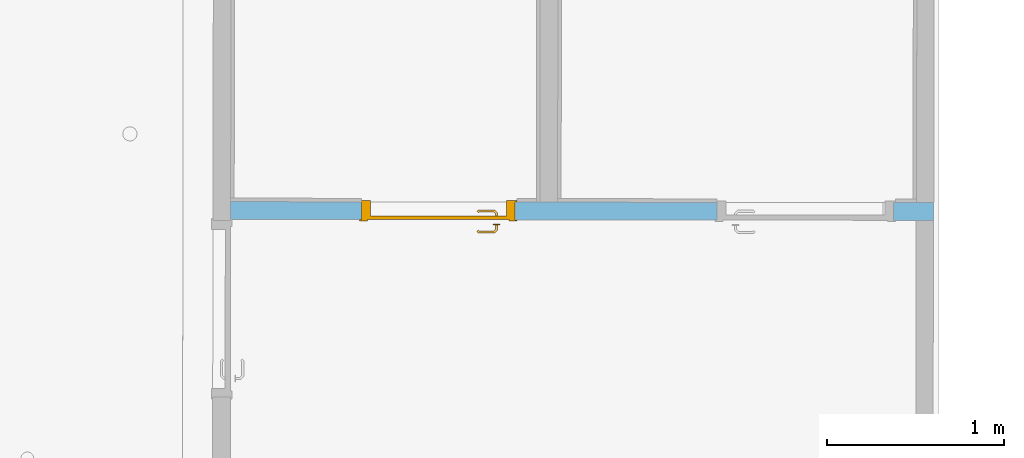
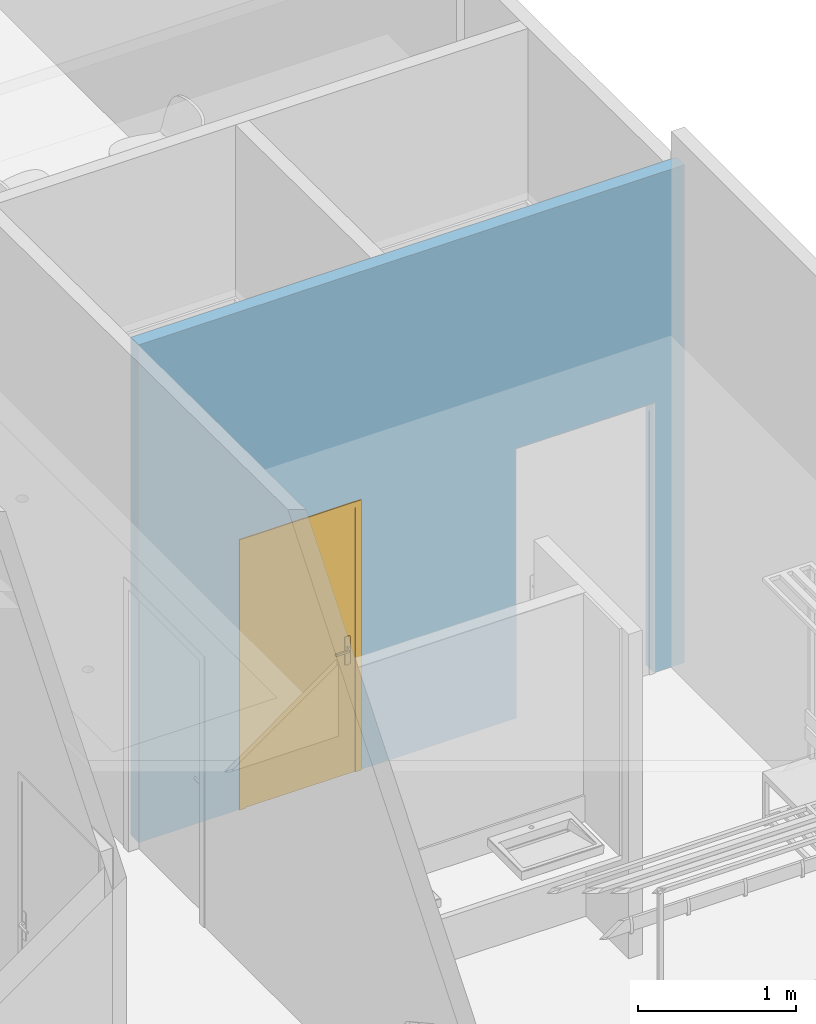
# One storey, part 27 of 43: 1 door, 2 openings, plus 1 element that does not belong to this part.
"""IFC2X3 building model written with IfcOpenShell, lengths in metres."""

from ifc_helpers import new_model, entity, si_unit, converted_unit, derived_unit, direction, frame, frame_2d, origin, place, context, subcontext, project, spatial, polyline, rectangle, outline, extrude, clip, bounded_halfspace, faceted_brep, source, transform, mapped, material, material_list, layer, layer_set, layer_usage, type_object, type_shapes, element, fill, save


model = new_model("IFC2X3")

# Units and contexts
model_context = context("Model", 3, precision=1e-05, world=origin(), true_north=direction((6.123233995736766e-17, 1.0)))
body_context = subcontext(model_context, "Body", "Model", "MODEL_VIEW")
ifc_project = project(units=[si_unit("LENGTHUNIT", "METRE"), si_unit("AREAUNIT", "SQUARE_METRE"), converted_unit("PLANEANGLEUNIT", "DEGREE", entity("IfcPlaneAngleMeasure", 0.017453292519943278), si_unit("PLANEANGLEUNIT", "RADIAN"), dimensions=[0, 0, 0, 0, 0, 0, 0]), derived_unit("THERMALTRANSMITTANCEUNIT", [(si_unit("MASSUNIT", "GRAM", prefix="KILO"), 1), (si_unit("THERMODYNAMICTEMPERATUREUNIT", "KELVIN"), -1), (si_unit("TIMEUNIT", "SECOND"), -3)])], contexts=[model_context])

# Site, building, storey
site_placement = place(None, frame((1253.6752467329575, 2072.143113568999, 91.49999999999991), z_axis=(0.0, 0.0, 1.0), x_axis=(0.7237211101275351, 0.6900925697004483, 0.0)))
site = spatial("IfcSite", under=ifc_project, at=site_placement, Name="Surface", CompositionType="ELEMENT")
building_placement = place(site_placement, origin())
building = spatial("IfcBuilding", under=site, at=building_placement, CompositionType="ELEMENT")
storey_placement = place(building_placement, frame((0.0, 0.0, -4.629999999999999)))
storey = spatial("IfcBuildingStorey", under=building, at=storey_placement, Name="rez de rue -1.10m", CompositionType="ELEMENT", Elevation=-4.629999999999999)

# Wall, openings, door
ifc_material_1 = material(Name="OMD_Cloison 100mm")
ifc_layer = layer(ifc_material_1, 0.1)
ifc_layer_set = layer_set([ifc_layer], Name="Mur de base:Cloison 100mm")
ifc_layer_usage = layer_usage(ifc_layer_set, "AXIS2", "POSITIVE", -0.05)
wall_type = type_object("IfcWallType", Name="Mur de base:Cloison 100mm", PredefinedType="STANDARD", material=ifc_layer_set)
wall_placement = place(storey_placement, frame((175.6110783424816, -7.6016317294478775, 0.0), z_axis=(0.0, 0.0, 1.0), x_axis=(0.7227070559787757, -0.6911544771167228, 0.0)))
wall = element("IfcWallStandardCase", 1, at=wall_placement, inside=storey, type_object=wall_type, material=ifc_layer_usage, Name="Mur de base:Cloison 100mm", ObjectType="Mur de base:Cloison 100mm", context=body_context, shape_type="Clipping", body=[
    clip(extrude(outline(polyline([(0.0, -0.04999999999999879), (3.9769807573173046, -0.04999999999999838), (3.977005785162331, 0.05000000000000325), (3.881052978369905, 0.049999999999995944), (1.8500000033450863, 0.04999999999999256), (1.750000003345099, 0.04999999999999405), (0.0, 0.049999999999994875), (0.0, -0.04999999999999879)])), origin(), (0.0, 0.0, 1.0), 3.8377577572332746), bounded_halfspace(frame((0.0, -0.050000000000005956, 3.8377577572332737), z_axis=(0.0, 0.00890106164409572, 0.9999603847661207), x_axis=(-1.0, 0.0, 0.0)), False, frame((0.0, -0.050000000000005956, 3.8377577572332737)), polyline([(0.0, 0.0), (3.976980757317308, 0.0), (3.9770057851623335, 0.09999999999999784), (3.8810529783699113, 0.10000000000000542), (1.8500000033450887, 0.09999999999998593), (1.7500000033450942, 0.09999999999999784), (0.0, 0.09999999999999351), (0.0, 0.0)]))),
])
opening_1_placement = place(wall_placement, frame((3.7519644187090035, 0.050000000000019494, 0.0)))
element("IfcOpeningElement", 2, at=opening_1_placement, cuts=wall, Name="Grz_porte 1V recouvrement 30°:93x204:1", ObjectType="Opening", context=body_context, shape_type="SweptSolid", body=[
    extrude(rectangle(XDim=2.0749999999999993, YDim=0.999999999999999, at=frame_2d((1.0374999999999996, 0.5000000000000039), x_axis=(1.0, 0.0))), frame((0.0, 0.0, 0.0), z_axis=(0.0, -1.0, 0.0), x_axis=(0.0, 0.0, 1.0)), (0.0, 0.0, 1.0), 0.1),
])
opening_2_placement = place(wall_placement, frame((1.6100000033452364, 0.05000000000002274, 0.0)))
opening_2 = element("IfcOpeningElement", 3, at=opening_2_placement, cuts=wall, Name="Grz_porte 1V recouvrement 30°:80x204:1", ObjectType="Opening", context=body_context, shape_type="SweptSolid", body=[
    extrude(rectangle(XDim=2.0749999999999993, YDim=0.8699999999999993, at=frame_2d((1.0374999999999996, 0.43499999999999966), x_axis=(1.0, 0.0))), frame((0.0, 0.0, 0.0), z_axis=(0.0, -1.0, 0.0), x_axis=(0.0, 0.0, 1.0)), (0.0, 0.0, 1.0), 0.1),
])
ifc_material_2 = material(Name="Porte - Poignée")
ifc_material_3 = material(Name="Porte - Cadre")
ifc_material_4 = material(Name="Porte - Panneau")
ifc_material_list = material_list([ifc_material_2, ifc_material_3, ifc_material_4])
door_style = type_object("IfcDoorStyle", Name="Grz_porte 1V recouvrement 30°:80x204", ConstructionType="NOTDEFINED", OperationType="SINGLE_SWING_LEFT", ParameterTakesPrecedence=False, Sizeable=False, material=ifc_material_list)
shared_shape = source(origin(), body_context, "Body", "Brep", [
    faceted_brep([(0.7670252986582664, 0.009999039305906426, 1.0077804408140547), (0.76297470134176, 0.009999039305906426, 1.007780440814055), (0.7589999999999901, 0.009999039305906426, 1.0069999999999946), (0.7589999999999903, 0.009999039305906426, 0.9930000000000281), (0.7629747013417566, 0.009999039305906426, 0.992219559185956), (0.7670252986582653, 0.009999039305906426, 0.9922195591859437), (0.7710000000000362, 0.009999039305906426, 0.9929999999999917), (0.7710000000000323, 0.009999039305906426, 1.0069999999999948), (0.7589999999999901, 0.03248424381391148, 1.0069999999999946), (0.7589999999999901, 0.0324842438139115, 0.9930000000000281), (0.7629747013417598, 0.03413061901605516, 1.007780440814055), (0.7670252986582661, 0.03580843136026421, 1.0077804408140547), (0.750838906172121, 0.051994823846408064, 1.0077804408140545), (0.7491610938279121, 0.04794422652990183, 1.0077804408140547), (0.6657931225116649, 0.04794422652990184, 1.0077804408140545), (0.6641153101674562, 0.05199482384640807, 1.0077804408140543), (0.6564510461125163, 0.044330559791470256, 1.0077804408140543), (0.6593152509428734, 0.0414663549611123, 1.0077804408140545), (0.7710000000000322, 0.03745480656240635, 1.0069999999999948), (0.7710000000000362, 0.03745480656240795, 0.9929999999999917), (0.7670252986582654, 0.03580843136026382, 0.9922195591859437), (0.7629747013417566, 0.03413061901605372, 0.992219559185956), (0.7491610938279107, 0.0479442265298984, 0.9922195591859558), (0.7508389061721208, 0.0519948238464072, 0.9922195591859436), (0.6641153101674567, 0.051994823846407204, 0.9922195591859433), (0.6657931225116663, 0.047944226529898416, 0.9922195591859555), (0.6593152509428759, 0.0414663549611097, 0.9922195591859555), (0.6564510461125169, 0.044330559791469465, 0.9922195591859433), (0.7475147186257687, 0.04396952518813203, 1.0069999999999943), (0.7475147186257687, 0.04396952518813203, 0.993000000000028), (0.7524852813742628, 0.05596952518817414, 1.0069999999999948), (0.7524852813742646, 0.055969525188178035, 0.9929999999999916), (0.7074771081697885, 0.04396952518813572, 1.0069999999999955), (0.6674394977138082, 0.04396952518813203, 1.0069999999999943), (0.6674394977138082, 0.043969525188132, 0.9930000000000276), (0.7074770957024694, 0.043969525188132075, 0.9930000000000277), (0.7074771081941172, 0.05012396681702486, 1.007878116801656), (0.7023994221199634, 0.05596952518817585, 1.0069999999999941), (0.6624689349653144, 0.055969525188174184, 1.0069999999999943), (0.7125547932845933, 0.05596952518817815, 0.9929999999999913), (0.6624689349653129, 0.05596952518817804, 0.9929999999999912), (0.7074771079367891, 0.05012396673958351, 0.9921218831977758), (0.6536405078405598, 0.0471410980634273, 1.0069999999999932), (0.6536405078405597, 0.04714109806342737, 0.9929999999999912), (0.6621257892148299, 0.03865581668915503, 0.9930000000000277), (0.6621257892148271, 0.038655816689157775, 1.0069999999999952)], [[[0, 1, 2, 3, 4, 5, 6, 7]], [[8, 9, 3, 2]], [[1, 10, 8, 2]], [[1, 0, 11, 12, 13, 10]], [[14, 15, 16, 17]], [[7, 18, 11, 0]], [[18, 7, 6, 19]], [[6, 5, 20, 19]], [[5, 4, 21, 22, 23, 20]], [[24, 25, 26, 27]], [[4, 3, 9, 21]], [[28, 29, 9, 8]], [[8, 10, 13, 28]], [[18, 30, 12, 11]], [[30, 18, 19, 31]], [[19, 20, 23, 31]], [[21, 9, 29, 22]], [[29, 28, 32, 33, 34, 35]], [[36, 32, 13]], [[37, 38, 15]], [[37, 12, 30]], [[36, 12, 37]], [[14, 32, 36]], [[36, 15, 14]], [[28, 13, 32]], [[32, 14, 33]], [[12, 36, 13]], [[15, 36, 37]], [[30, 31, 39, 40, 38, 37]], [[23, 41, 39]], [[24, 39, 41]], [[39, 31, 23]], [[39, 24, 40]], [[22, 35, 41]], [[41, 23, 22]], [[41, 35, 25]], [[35, 22, 29]], [[34, 25, 35]], [[24, 41, 25]], [[17, 16, 42, 43, 27, 26, 44, 45]], [[45, 44, 34, 33]], [[33, 14, 17, 45]], [[15, 38, 42, 16]], [[43, 42, 38, 40]], [[24, 27, 43, 40]], [[34, 44, 26, 25]]]),
    faceted_brep([(0.7629747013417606, -0.03000096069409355, 1.007780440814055), (0.7670252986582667, -0.03000096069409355, 1.0077804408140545), (0.7710000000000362, -0.03000096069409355, 1.0069999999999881), (0.7710000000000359, -0.03000096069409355, 0.9929999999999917), (0.7670252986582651, -0.03000096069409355, 0.9922195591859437), (0.7629747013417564, -0.03000096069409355, 0.992219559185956), (0.7589999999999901, -0.03000096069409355, 0.9930000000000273), (0.7589999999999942, -0.03000096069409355, 1.0069999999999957), (0.7670252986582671, -0.056005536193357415, 1.0077804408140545), (0.7710000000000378, -0.05765191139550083, 1.0069999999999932), (0.7629747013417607, -0.05432772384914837, 1.007780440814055), (0.7492986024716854, -0.06800382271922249, 1.0077804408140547), (0.7509764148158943, -0.07205442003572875, 1.0077804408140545), (0.664142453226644, -0.07205442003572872, 1.007780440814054), (0.665820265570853, -0.06800382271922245, 1.0077804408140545), (0.6593423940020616, -0.06152595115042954, 1.0077804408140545), (0.6564781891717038, -0.06439015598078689, 1.007780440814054), (0.7589999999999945, -0.052681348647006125, 1.0069999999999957), (0.7589999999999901, -0.0526813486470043, 0.9930000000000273), (0.7629747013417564, -0.0543277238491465, 0.992219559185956), (0.7670252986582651, -0.056005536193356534, 0.9922195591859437), (0.7509764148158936, -0.07205442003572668, 0.9922195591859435), (0.7492986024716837, -0.06800382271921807, 0.9922195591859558), (0.6658202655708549, -0.06800382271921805, 0.9922195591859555), (0.6641424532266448, -0.07205442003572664, 0.9922195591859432), (0.6564781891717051, -0.06439015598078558, 0.9922195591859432), (0.6593423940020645, -0.06152595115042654, 0.9922195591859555), (0.7710000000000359, -0.057651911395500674, 0.9929999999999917), (0.7526227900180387, -0.0760291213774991, 1.006999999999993), (0.7476522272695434, -0.06402912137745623, 1.0069999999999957), (0.7476522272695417, -0.06402912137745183, 0.9930000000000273), (0.7526227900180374, -0.0760291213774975, 0.9929999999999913), (0.707559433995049, -0.07018376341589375, 1.0078781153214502), (0.7126923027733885, -0.07602912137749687, 1.0069999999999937), (0.6624960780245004, -0.07602912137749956, 1.0069999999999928), (0.7075594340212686, -0.06402912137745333, 1.0069999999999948), (0.6674666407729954, -0.06402912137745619, 1.0069999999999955), (0.7075594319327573, -0.06402912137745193, 0.9930000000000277), (0.6674666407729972, -0.0640291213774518, 0.993000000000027), (0.7075594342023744, -0.0701837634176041, 0.9921218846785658), (0.7024265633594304, -0.07602912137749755, 0.9929999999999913), (0.6624960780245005, -0.07602912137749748, 0.9929999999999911), (0.6621529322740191, -0.0587154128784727, 0.9930000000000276), (0.6536676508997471, -0.06720069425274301, 0.9929999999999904), (0.6536676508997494, -0.06720069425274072, 1.0069999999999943), (0.6621529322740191, -0.05871541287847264, 1.0069999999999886)], [[[0, 1, 2, 3, 4, 5, 6, 7]], [[2, 1, 8, 9]], [[1, 0, 10, 11, 12, 8]], [[13, 14, 15, 16]], [[0, 7, 17, 10]], [[17, 7, 6, 18]], [[5, 19, 18, 6]], [[5, 4, 20, 21, 22, 19]], [[23, 24, 25, 26]], [[3, 27, 20, 4]], [[9, 27, 3, 2]], [[9, 8, 12, 28]], [[10, 17, 29, 11]], [[29, 17, 18, 30]], [[18, 19, 22, 30]], [[20, 27, 31, 21]], [[28, 31, 27, 9]], [[12, 32, 33]], [[13, 33, 32]], [[33, 28, 12]], [[33, 13, 34]], [[11, 35, 32]], [[32, 12, 11]], [[32, 35, 14]], [[35, 11, 29]], [[36, 14, 35]], [[13, 32, 14]], [[30, 37, 38, 36, 35, 29]], [[39, 37, 22]], [[40, 41, 24]], [[40, 21, 31]], [[39, 21, 40]], [[23, 37, 39]], [[39, 24, 23]], [[30, 22, 37]], [[37, 23, 38]], [[21, 39, 22]], [[24, 39, 40]], [[31, 28, 33, 34, 41, 40]], [[42, 26, 25, 43, 44, 16, 15, 45]], [[13, 16, 44, 34]], [[36, 45, 15, 14]], [[45, 36, 38, 42]], [[38, 23, 26, 42]], [[24, 41, 43, 25]], [[44, 43, 41, 34]]]),
    faceted_brep([(0.7650000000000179, 0.004999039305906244, 0.8646410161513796), (0.7753527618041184, 0.004999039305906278, 0.8660039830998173), (0.7850000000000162, 0.004999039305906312, 0.870000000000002), (0.7850000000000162, 0.004999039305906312, 1.0800000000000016), (0.775352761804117, 0.004999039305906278, 1.0839960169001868), (0.7650000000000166, 0.004999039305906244, 1.085358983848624), (0.754647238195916, 0.00499903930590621, 1.0839960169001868), (0.7450000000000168, 0.004999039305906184, 1.0800000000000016), (0.7450000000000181, 0.004999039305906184, 0.8700000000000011), (0.7546472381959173, 0.00499903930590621, 0.8660039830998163), (0.7650000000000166, 0.00999903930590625, 1.085358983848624), (0.775352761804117, 0.009999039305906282, 1.0839960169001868), (0.7850000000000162, 0.009999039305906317, 1.0800000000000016), (0.7850000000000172, 0.009999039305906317, 0.8700000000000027), (0.7753527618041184, 0.009999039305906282, 0.8660039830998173), (0.7650000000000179, 0.00999903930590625, 0.8646410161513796), (0.7546472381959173, 0.009999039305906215, 0.8660039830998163), (0.7450000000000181, 0.00999903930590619, 0.8700000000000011), (0.7450000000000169, 0.00999903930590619, 1.0800000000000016), (0.754647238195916, 0.009999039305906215, 1.0839960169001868)], [[[0, 1, 2, 3, 4, 5, 6, 7, 8, 9]], [[10, 11, 12, 13, 14, 15, 16, 17, 18, 19]], [[6, 19, 18, 7]], [[5, 10, 19, 6]], [[4, 11, 10, 5]], [[4, 3, 12, 11]], [[12, 3, 2, 13]], [[1, 14, 13, 2]], [[0, 15, 14, 1]], [[9, 16, 15, 0]], [[9, 8, 17, 16]], [[17, 8, 7, 18]]]),
    faceted_brep([(0.765000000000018, -0.030000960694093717, 0.8646410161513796), (0.7753527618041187, -0.030000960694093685, 0.8660039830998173), (0.7850000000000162, -0.030000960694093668, 0.8700000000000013), (0.7850000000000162, -0.030000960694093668, 1.0800000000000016), (0.775352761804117, -0.030000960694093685, 1.0839960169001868), (0.7650000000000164, -0.030000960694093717, 1.085358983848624), (0.7546472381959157, -0.03000096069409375, 1.0839960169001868), (0.7450000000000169, -0.030000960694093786, 1.0800000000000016), (0.7450000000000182, -0.030000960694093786, 0.8700000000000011), (0.7546472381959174, -0.03000096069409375, 0.8660039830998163), (0.7850000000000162, -0.02500096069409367, 1.0800000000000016), (0.7850000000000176, -0.02500096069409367, 0.8700000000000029), (0.7753527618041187, -0.025000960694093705, 0.8660039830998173), (0.765000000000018, -0.025000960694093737, 0.8646410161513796), (0.7546472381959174, -0.02500096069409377, 0.8660039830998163), (0.7450000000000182, -0.0250009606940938, 0.8700000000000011), (0.7450000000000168, -0.0250009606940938, 1.0800000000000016), (0.7546472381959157, -0.02500096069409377, 1.0839960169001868), (0.7650000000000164, -0.025000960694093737, 1.085358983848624), (0.775352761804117, -0.025000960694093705, 1.0839960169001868)], [[[0, 1, 2, 3, 4, 5, 6, 7, 8, 9]], [[10, 11, 12, 13, 14, 15, 16, 17, 18, 19]], [[1, 12, 11, 2]], [[0, 13, 12, 1]], [[9, 14, 13, 0]], [[9, 8, 15, 14]], [[15, 8, 7, 16]], [[6, 17, 16, 7]], [[5, 18, 17, 6]], [[4, 19, 18, 5]], [[4, 3, 10, 19]], [[10, 3, 2, 11]]]),
    faceted_brep([(0.8700000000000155, -9.606940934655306e-07, 0.0), (0.8800000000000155, -9.606940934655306e-07, 0.0), (0.8800000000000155, -0.00800096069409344, 0.0), (0.8350000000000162, -0.00800096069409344, 0.0), (0.8350000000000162, 0.019999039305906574, 0.0), (0.8200000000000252, 0.019999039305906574, 0.0), (0.8200000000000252, 0.10799903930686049, 0.0), (0.8800000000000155, 0.10799903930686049, 0.0), (0.8800000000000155, 0.09999903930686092, 0.0), (0.8700000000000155, 0.09999903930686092, 0.0), (0.8700000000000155, 0.09999903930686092, 2.0749999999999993), (0.8700000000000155, -9.606940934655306e-07, 2.0749999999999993), (0.8800000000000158, 0.09999903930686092, 2.084999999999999), (-0.009999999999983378, 0.09999903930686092, 2.084999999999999), (-0.009999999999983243, 0.09999903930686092, 0.0), (0.0, 0.09999903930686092, 0.0), (0.0, 0.09999903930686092, 2.0749999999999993), (0.8800000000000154, 0.10799903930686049, 2.084999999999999), (0.820000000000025, 0.10799903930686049, 2.0250000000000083), (0.050000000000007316, 0.10799903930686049, 2.0250000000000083), (0.050000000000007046, 0.10799903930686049, 0.0), (-0.009999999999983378, 0.10799903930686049, 0.0), (-0.009999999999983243, 0.10799903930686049, 2.084999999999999), (0.8200000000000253, 0.019999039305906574, 2.0250000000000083), (0.8350000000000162, 0.019999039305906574, 2.0399999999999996), (0.035000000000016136, 0.019999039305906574, 2.0399999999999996), (0.035000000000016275, 0.019999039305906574, 0.0), (0.050000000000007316, 0.019999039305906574, 0.0), (0.050000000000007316, 0.019999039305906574, 2.0250000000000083), (0.8350000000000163, -0.00800096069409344, 2.0399999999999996), (0.8800000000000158, -0.00800096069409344, 2.084999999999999), (-0.009999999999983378, -0.00800096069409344, 2.084999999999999), (-0.009999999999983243, -0.00800096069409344, 0.0), (0.035000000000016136, -0.00800096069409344, 0.0), (0.035000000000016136, -0.00800096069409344, 2.0399999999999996), (0.8800000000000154, -9.606940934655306e-07, 2.084999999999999), (0.0, -9.606940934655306e-07, 2.0749999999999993), (0.0, -9.606940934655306e-07, 0.0), (-0.009999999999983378, -9.606940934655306e-07, 0.0), (-0.009999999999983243, -9.606940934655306e-07, 2.084999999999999)], [[[0, 1, 2, 3, 4, 5, 6, 7, 8, 9]], [[9, 10, 11, 0]], [[8, 12, 13, 14, 15, 16, 10, 9]], [[7, 17, 12, 8]], [[6, 18, 19, 20, 21, 22, 17, 7]], [[5, 23, 18, 6]], [[4, 24, 25, 26, 27, 28, 23, 5]], [[3, 29, 24, 4]], [[2, 30, 31, 32, 33, 34, 29, 3]], [[1, 35, 30, 2]], [[0, 11, 36, 37, 38, 39, 35, 1]], [[16, 15, 37, 36]], [[37, 15, 14, 21, 20, 27, 26, 33, 32, 38]], [[22, 21, 14, 13]], [[28, 27, 20, 19]], [[34, 33, 26, 25]], [[39, 38, 32, 31]], [[10, 16, 36, 11]], [[17, 22, 13, 12]], [[23, 28, 19, 18]], [[29, 34, 25, 24]], [[35, 39, 31, 30]]]),
    faceted_brep([(0.8350000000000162, -9.60694093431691e-07, 2.0399999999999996), (0.03500000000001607, -9.60694093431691e-07, 2.0399999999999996), (0.035000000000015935, -9.60694093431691e-07, 0.0), (0.835000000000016, -9.60694093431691e-07, 0.0), (0.8350000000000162, 0.019999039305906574, 2.0399999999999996), (0.835000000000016, 0.019999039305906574, 0.0), (0.035000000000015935, 0.019999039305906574, 0.0), (0.03500000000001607, 0.019999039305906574, 2.0399999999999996)], [[[0, 1, 2, 3]], [[4, 5, 6, 7]], [[3, 5, 4, 0]], [[2, 6, 5, 3]], [[1, 7, 6, 2]], [[0, 4, 7, 1]]]),
])
type_shapes(door_style, [shared_shape])
door_placement = place(opening_2_placement, frame((-0.8700000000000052, -0.09999903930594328, 0.0)))
door = element("IfcDoor", 4, at=door_placement, inside=storey, type_object=door_style, material=ifc_material_list, Name="Grz_porte 1V recouvrement 30°:80x204", ObjectType="Grz_porte 1V recouvrement 30°:80x204", OverallHeight=2.0749999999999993, OverallWidth=0.8700000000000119, context=body_context, shape_type="MappedRepresentation", body=[
    mapped(shared_shape, transform((0.0, 0.0, 0.0), scale=1.0)),
])
fill(opening_2, door)

save(model, "model.ifc")
